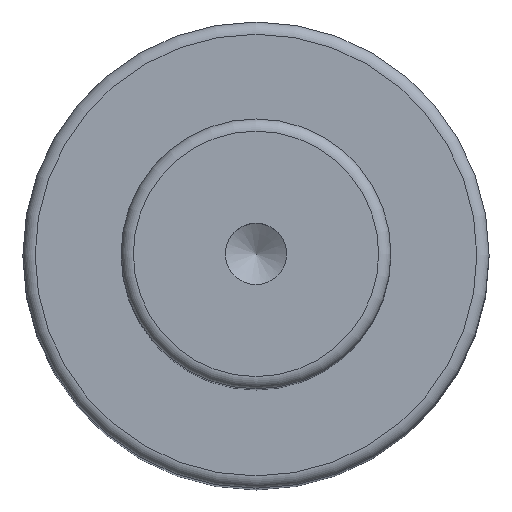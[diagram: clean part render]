
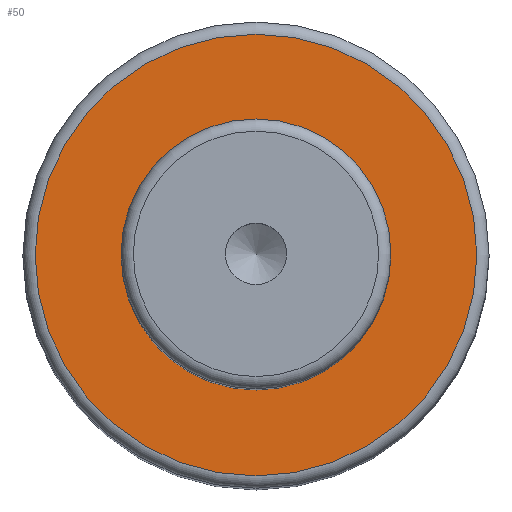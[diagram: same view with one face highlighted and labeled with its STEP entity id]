
A CAD part, top view. The second image highlights one B-rep face of the part: STEP entity #50.
In plain terms, the highlighted planar face has unit normal (0, 0, 1).
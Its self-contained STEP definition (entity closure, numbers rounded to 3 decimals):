
#40=PLANE('',#179);
#50=ADVANCED_FACE('',(#72,#73),#40,.F.);
#72=FACE_BOUND('',#96,.T.);
#73=FACE_BOUND('',#97,.T.);
#96=EDGE_LOOP('',(#118));
#97=EDGE_LOOP('',(#119));
#118=ORIENTED_EDGE('',*,*,#149,.F.);
#119=ORIENTED_EDGE('',*,*,#148,.T.);
#135=VERTEX_POINT('',#256);
#136=VERTEX_POINT('',#259);
#148=EDGE_CURVE('',#135,#135,#159,.T.);
#149=EDGE_CURVE('',#136,#136,#160,.T.);
#159=CIRCLE('',#176,11.);
#160=CIRCLE('',#178,18.);
#176=AXIS2_PLACEMENT_3D('',#255,#213,#214);
#178=AXIS2_PLACEMENT_3D('',#258,#217,#218);
#179=AXIS2_PLACEMENT_3D('',#260,#219,#220);
#213=DIRECTION('',(0.,0.,-1.));
#214=DIRECTION('',(-1.,0.,0.));
#217=DIRECTION('',(0.,0.,-1.));
#218=DIRECTION('',(-1.,0.,0.));
#219=DIRECTION('',(0.,0.,-1.));
#220=DIRECTION('',(-1.,0.,0.));
#255=CARTESIAN_POINT('',(0.,0.,85.));
#256=CARTESIAN_POINT('',(-11.,0.,85.));
#258=CARTESIAN_POINT('',(0.,0.,85.));
#259=CARTESIAN_POINT('',(-18.,0.,85.));
#260=CARTESIAN_POINT('',(11.,0.,85.));
